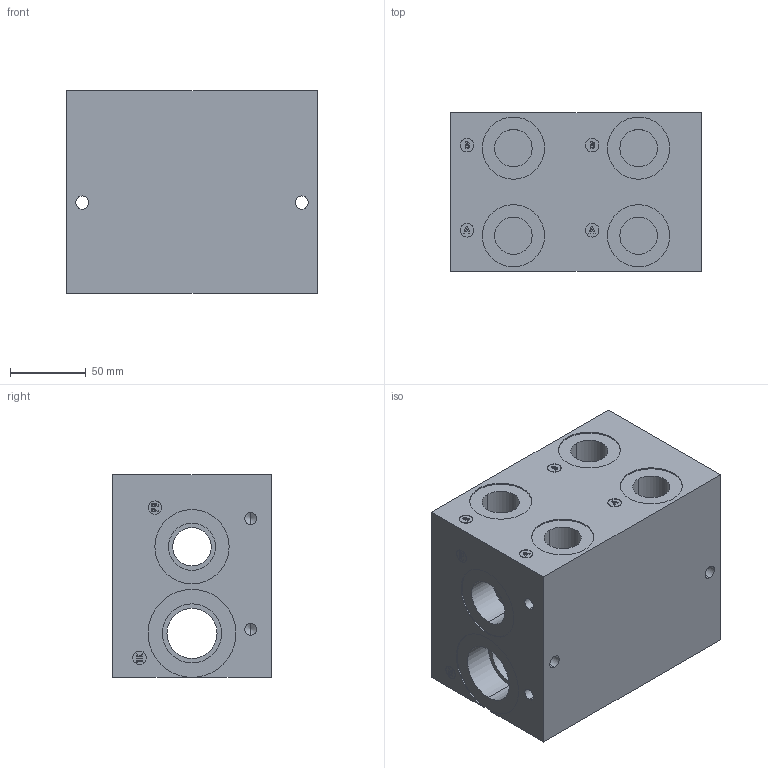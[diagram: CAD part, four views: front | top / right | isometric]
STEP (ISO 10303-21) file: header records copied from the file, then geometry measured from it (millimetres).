
FILE_DESCRIPTION (( 'STEP AP203' ), '1' );
FILE_NAME ('BM-AHP05S3-02-1_Z.STEP', '2015-01-06T15:59:45', ( '' ), ( '' ), 'SwSTEP 2.0', 'SolidWorks 2014', '' );
FILE_SCHEMA (( 'CONFIG_CONTROL_DESIGN' ));
Length unit declared in the file: inch
Products named in the file (1): BM-AHP05S3-02-1_Z
Bounding box: 165.1 x 104.65 x 133.35 mm (x, y, z)
Volume: 1985308.7 mm3; surface area: 154346.4 mm2
Topology: 1 solids, 1 shells, 369 faces, 899 edges, 566 vertices
Faces by surface type: plane 176, cylinder 115, cone 40, bspline 38
Entity records: 12798 total; most frequent: CARTESIAN_POINT 4281, ORIENTED_EDGE 1718, DIRECTION 1677, EDGE_CURVE 859, VERTEX_POINT 566, AXIS2_PLACEMENT_3D 562, LINE 553, VECTOR 553
